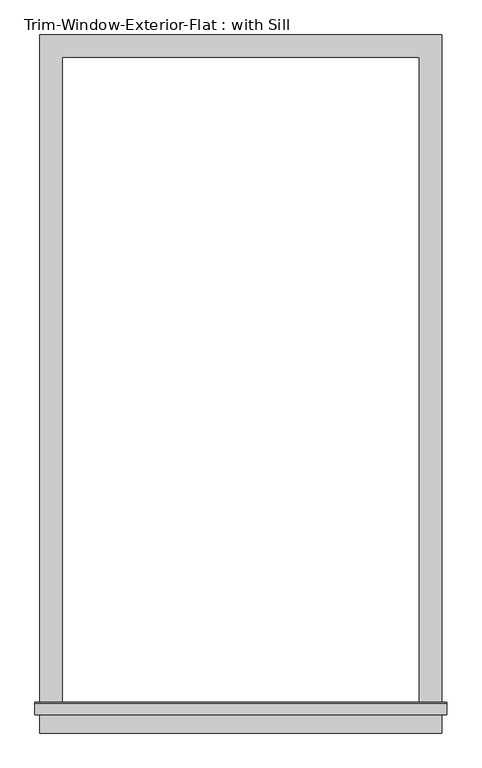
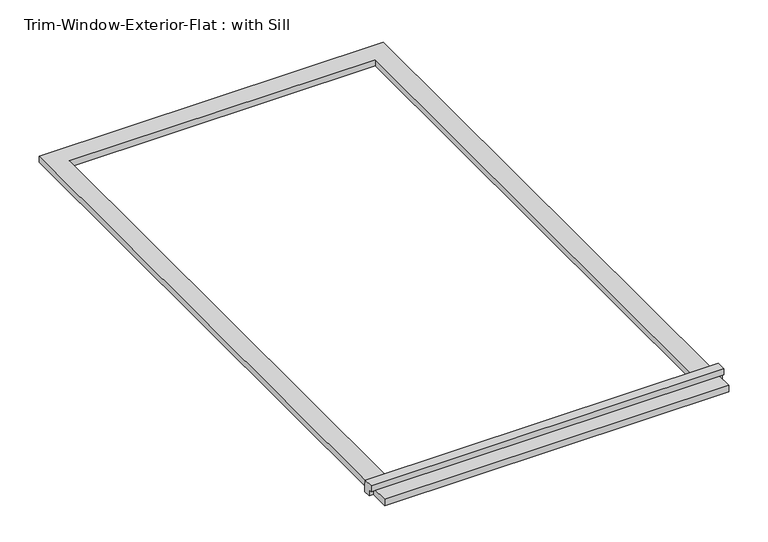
"""IFC4 building model written with IfcOpenShell, lengths in millimetres: proxy geometry, Trim-Window-Exterior-Flat : with Sill."""

from ifc_helpers import new_model, si_unit, frame, origin, origin_with_axes, place, context, project, spatial, polyline, outline, extrude, source, transform, mapped, element, save


def trim_window_exterior_flat_with_sill_0b42d71c(model_context):
    return source(origin(), model_context, "Body", "SweptSolid", [
        extrude(outline(polyline([(514.35, -1673.1823709), (514.35, -1730.3323709), (-514.35, -1730.3323709), (-514.35, -1673.1823709), (514.35, -1673.1823709)])), origin_with_axes(), (0.0, 0.0, 1.0), 19.05),
        extrude(outline(polyline([(-1682.75, 38.1), (-1653.4580645, 38.1), (-1651.0, 19.05), (-1651.0, 0.0), (-1673.1823709, 0.0), (-1673.1823709, 19.05), (-1682.75, 19.05), (-1682.75, 38.1)])), frame((-527.05, 0.0, 0.0), z_axis=(1.0, 0.0, 0.0), x_axis=(0.0, 1.0, 0.0)), (0.0, 0.0, 1.0), 1054.1),
        extrude(outline(polyline([(-514.35, 57.15), (514.35, 57.15), (514.35, -1651.0), (457.2, -1651.0), (457.2, 0.0), (-457.2, 0.0), (-457.2, -1651.0), (-514.35, -1651.0), (-514.35, 57.15)])), origin_with_axes(), (0.0, 0.0, 1.0), 19.05),
    ])


if __name__ == "__main__":
    model = new_model("IFC4")
    model_context = context("Model", 3, world=origin())
    ifc_project = project(units=[si_unit("LENGTHUNIT", "METRE", prefix="MILLI")], contexts=[model_context])
    site = spatial("IfcSite", under=ifc_project)
    building = spatial("IfcBuilding", under=site)
    placement = place(None, origin())
    trim_window_exterior_flat_with_sill_shape = trim_window_exterior_flat_with_sill_0b42d71c(model_context)
    element("IfcBuildingElementProxy", 1, Name="Trim-Window-Exterior-Flat : with Sill", ObjectType="Trim-Window-Exterior-Flat : with Sill", at=placement, inside=building, context=model_context, shape_type="MappedRepresentation", body=[
        mapped(trim_window_exterior_flat_with_sill_shape, transform((0.0, 0.0, 0.0), x_axis=(1.0, 0.0, 0.0), y_axis=(0.0, 1.0, 0.0), z_axis=(0.0, 0.0, 1.0))),
    ])
    save(model, "model.ifc")
